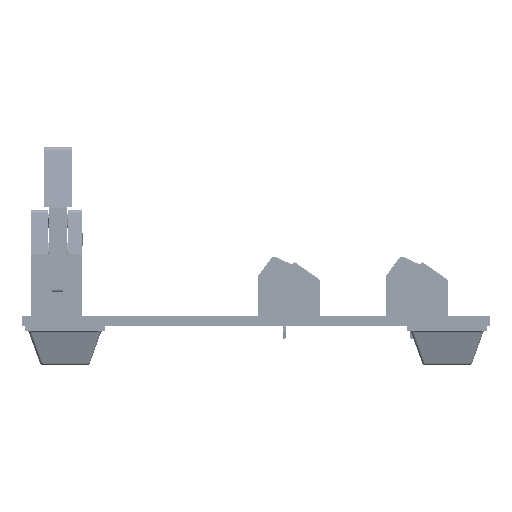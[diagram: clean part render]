
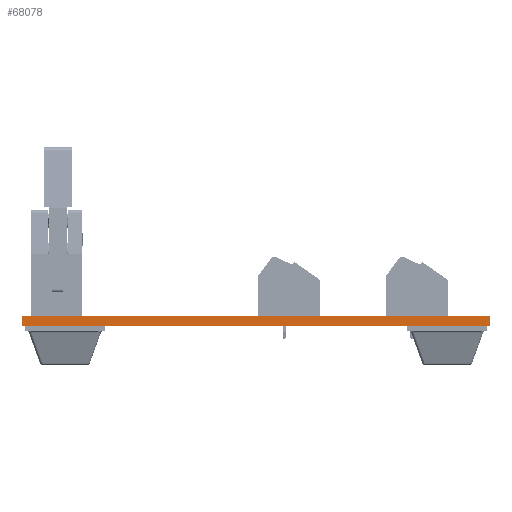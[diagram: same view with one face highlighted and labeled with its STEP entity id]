
A CAD part, front view. The second image highlights one B-rep face of the part: STEP entity #68078.
In plain terms, the highlighted planar face has unit normal (0, -1, 0).
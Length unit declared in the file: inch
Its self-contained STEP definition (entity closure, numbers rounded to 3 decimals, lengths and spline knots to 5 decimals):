
#4264 = ORIENTED_EDGE ( 'NONE', *, *, #67641, .F. ) ;
#9432 = DIRECTION ( 'NONE',  ( 1., 0., 0. ) ) ;
#9719 = VECTOR ( 'NONE', #114481, 39.37008 ) ;
#13910 = CARTESIAN_POINT ( 'NONE',  ( 0., 3., 0. ) ) ;
#24642 = DIRECTION ( 'NONE',  ( 0., 0., -1. ) ) ;
#27017 = LINE ( 'NONE', #82074, #96575 ) ;
#32013 = CARTESIAN_POINT ( 'NONE',  ( 22.07, 3., 0.0625 ) ) ;
#40771 = DIRECTION ( 'NONE',  ( 0., 0., 1. ) ) ;
#41601 = DIRECTION ( 'NONE',  ( 0., 1., 0. ) ) ;
#46109 = ORIENTED_EDGE ( 'NONE', *, *, #55070, .F. ) ;
#55070 = EDGE_CURVE ( 'NONE', #170392, #191414, #82682, .T. ) ;
#62175 = ORIENTED_EDGE ( 'NONE', *, *, #245820, .T. ) ;
#67065 = CARTESIAN_POINT ( 'NONE',  ( 19.07, 3., 0. ) ) ;
#67641 = EDGE_CURVE ( 'NONE', #191414, #203789, #165961, .T. ) ;
#68078 = ADVANCED_FACE ( 'NONE', ( #123248 ), #217668, .F. ) ;
#82074 = CARTESIAN_POINT ( 'NONE',  ( 19.07, 3., 0.0625 ) ) ;
#82682 = LINE ( 'NONE', #165057, #140251 ) ;
#96575 = VECTOR ( 'NONE', #24642, 39.37008 ) ;
#101633 = CARTESIAN_POINT ( 'NONE',  ( 0., 3., 0.0625 ) ) ;
#109773 = DIRECTION ( 'NONE',  ( 0., 0., -1. ) ) ;
#114481 = DIRECTION ( 'NONE',  ( 1., 0., 0. ) ) ;
#117091 = VERTEX_POINT ( 'NONE', #67065 ) ;
#123248 = FACE_OUTER_BOUND ( 'NONE', #206460, .T. ) ;
#131247 = CARTESIAN_POINT ( 'NONE',  ( 22.07, 3., 0.0625 ) ) ;
#133737 = LINE ( 'NONE', #13910, #9719 ) ;
#140251 = VECTOR ( 'NONE', #9432, 39.37008 ) ;
#156058 = ORIENTED_EDGE ( 'NONE', *, *, #227307, .T. ) ;
#165057 = CARTESIAN_POINT ( 'NONE',  ( 0., 3., 0.0625 ) ) ;
#165961 = LINE ( 'NONE', #32013, #178043 ) ;
#170392 = VERTEX_POINT ( 'NONE', #199635 ) ;
#178043 = VECTOR ( 'NONE', #109773, 39.37008 ) ;
#191414 = VERTEX_POINT ( 'NONE', #131247 ) ;
#199635 = CARTESIAN_POINT ( 'NONE',  ( 19.07, 3., 0.0625 ) ) ;
#203789 = VERTEX_POINT ( 'NONE', #209063 ) ;
#206460 = EDGE_LOOP ( 'NONE', ( #156058, #4264, #46109, #62175 ) ) ;
#209063 = CARTESIAN_POINT ( 'NONE',  ( 22.07, 3., 0. ) ) ;
#217668 = PLANE ( 'NONE',  #219884 ) ;
#219884 = AXIS2_PLACEMENT_3D ( 'NONE', #101633, #41601, #40771 ) ;
#227307 = EDGE_CURVE ( 'NONE', #117091, #203789, #133737, .T. ) ;
#245820 = EDGE_CURVE ( 'NONE', #170392, #117091, #27017, .T. ) ;
